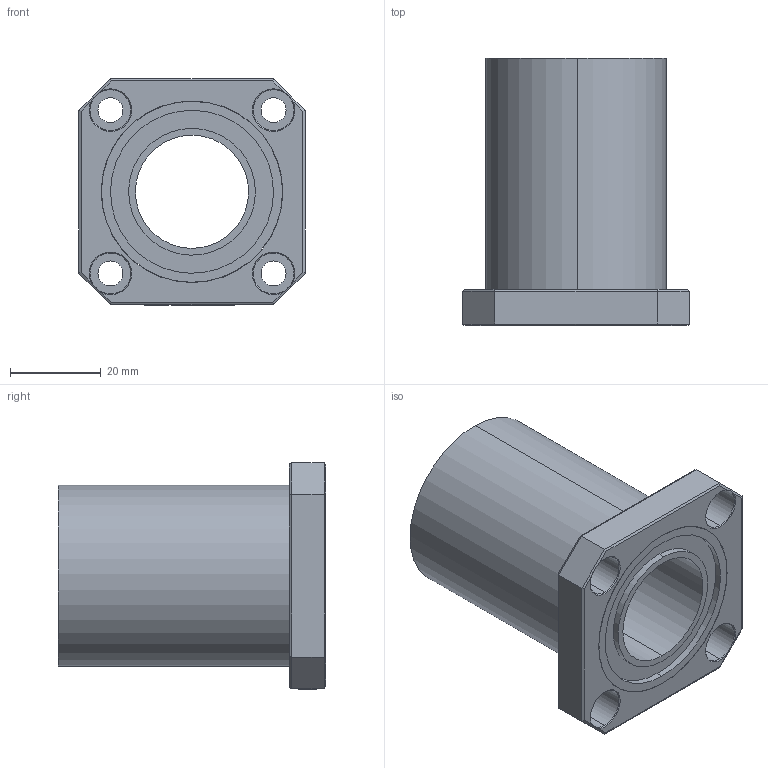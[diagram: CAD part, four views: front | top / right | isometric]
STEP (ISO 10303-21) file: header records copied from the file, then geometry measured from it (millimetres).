
FILE_DESCRIPTION (( 'STEP AP214' ), '1' );
FILE_NAME ('LMK25UU.STEP', '2020-12-11T11:34:11', ( '' ), ( '' ), 'SwSTEP 2.0', 'SolidWorks 2018', '' );
FILE_SCHEMA (( 'AUTOMOTIVE_DESIGN' ));
Length unit declared in the file: millimetre
Products named in the file (3): LMK25UU; LMK25UU Part1; LMK25UU Part2
Assembly tree (2 placements, depth 2):
  LMK25UU
    LMK25UU Part1
    LMK25UU Part2
Bounding box: 50 x 59 x 50.1 mm (x, y, z)
Volume: 51111.5 mm3; surface area: 19434.6 mm2
Topology: 13 solids, 13 shells, 189 faces, 443 edges, 284 vertices
Faces by surface type: plane 109, bspline 32, cylinder 30, cone 18
Entity records: 8673 total; most frequent: CARTESIAN_POINT 2917, ORIENTED_EDGE 886, DIRECTION 781, EDGE_CURVE 443, VECTOR 293, LINE 293, VERTEX_POINT 284, AXIS2_PLACEMENT_3D 244
